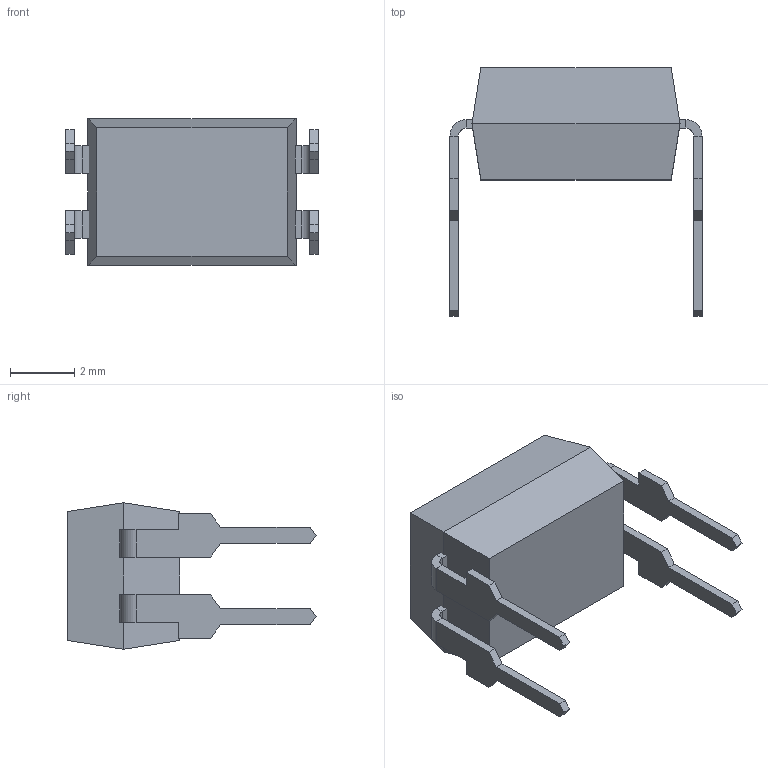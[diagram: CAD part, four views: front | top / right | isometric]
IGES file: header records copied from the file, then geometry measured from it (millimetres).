
Start section: SolidWorks IGES file using analytic representation for surfaces
Global section: file name: C:\Users\David\Dropbox\Jose Espina\Component Packages\DIP4\DIP4-TH.IGS; native system: SolidWorks 2015; preprocessor: SolidWorks 2015; author: David; date: 151206.092337; units: millimetre
Bounding box: 7.88 x 7.75 x 4.58 mm (x, y, z)
Volume: 111.2 mm3; surface area: 285.7 mm2
Topology: 3 solids, 3 shells, 117 faces, 300 edges, 188 vertices
Faces by surface type: plane 107, revolution 10
